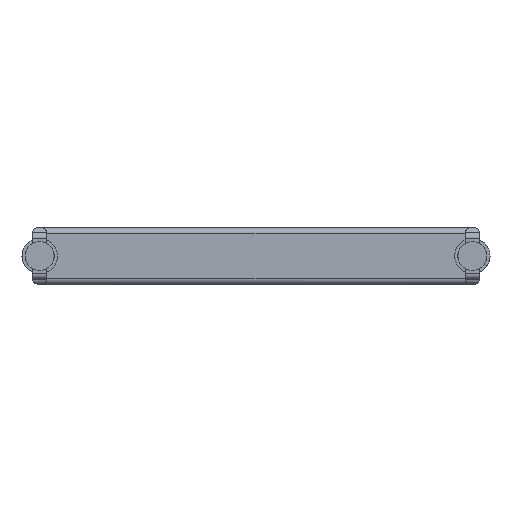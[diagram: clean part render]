
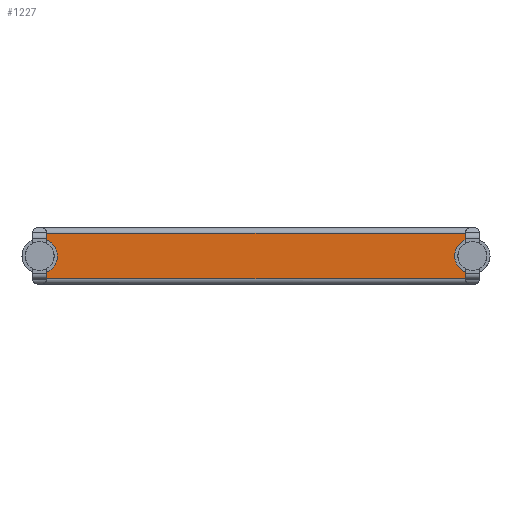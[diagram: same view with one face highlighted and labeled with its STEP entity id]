
A CAD part, front view. The second image highlights one B-rep face of the part: STEP entity #1227.
In plain terms, the highlighted planar face has unit normal (0, -1, 0).
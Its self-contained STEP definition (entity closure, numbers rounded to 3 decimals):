
#24=PLANE('',#1338);
#146=FACE_OUTER_BOUND('',#228,.T.);
#228=EDGE_LOOP('',(#868,#869,#870,#871));
#313=LINE('',#1853,#411);
#346=LINE('',#1962,#444);
#350=LINE('',#1971,#448);
#353=LINE('',#1976,#451);
#411=VECTOR('',#1448,14.79);
#444=VECTOR('',#1569,14.79);
#448=VECTOR('',#1579,1.6);
#451=VECTOR('',#1584,1.6);
#510=VERTEX_POINT('',#1850);
#511=VERTEX_POINT('',#1852);
#519=VERTEX_POINT('',#1873);
#542=VERTEX_POINT('',#1956);
#608=EDGE_CURVE('',#510,#511,#313,.T.);
#664=EDGE_CURVE('',#519,#542,#346,.T.);
#669=EDGE_CURVE('',#542,#510,#350,.T.);
#672=EDGE_CURVE('',#511,#519,#353,.T.);
#868=ORIENTED_EDGE('',*,*,#664,.F.);
#869=ORIENTED_EDGE('',*,*,#672,.F.);
#870=ORIENTED_EDGE('',*,*,#608,.F.);
#871=ORIENTED_EDGE('',*,*,#669,.F.);
#1227=ADVANCED_FACE('',(#146),#24,.T.);
#1338=AXIS2_PLACEMENT_3D('',#1975,#1582,#1583);
#1448=DIRECTION('',(1.,0.,0.));
#1569=DIRECTION('',(-1.,0.,0.));
#1579=DIRECTION('',(0.,0.,1.));
#1582=DIRECTION('center_axis',(0.,-1.,0.));
#1583=DIRECTION('ref_axis',(1.,0.,0.));
#1584=DIRECTION('',(0.,0.,-1.));
#1850=CARTESIAN_POINT('',(0.51,6.49,1.8));
#1852=CARTESIAN_POINT('',(15.3,6.49,1.8));
#1853=CARTESIAN_POINT('',(4.08,6.49,1.8));
#1873=CARTESIAN_POINT('',(15.3,6.49,0.2));
#1956=CARTESIAN_POINT('',(0.51,6.49,0.2));
#1962=CARTESIAN_POINT('',(0.255,6.49,0.2));
#1971=CARTESIAN_POINT('',(0.51,6.49,0.));
#1975=CARTESIAN_POINT('Origin',(0.255,6.49,0.));
#1976=CARTESIAN_POINT('',(15.3,6.49,0.));
